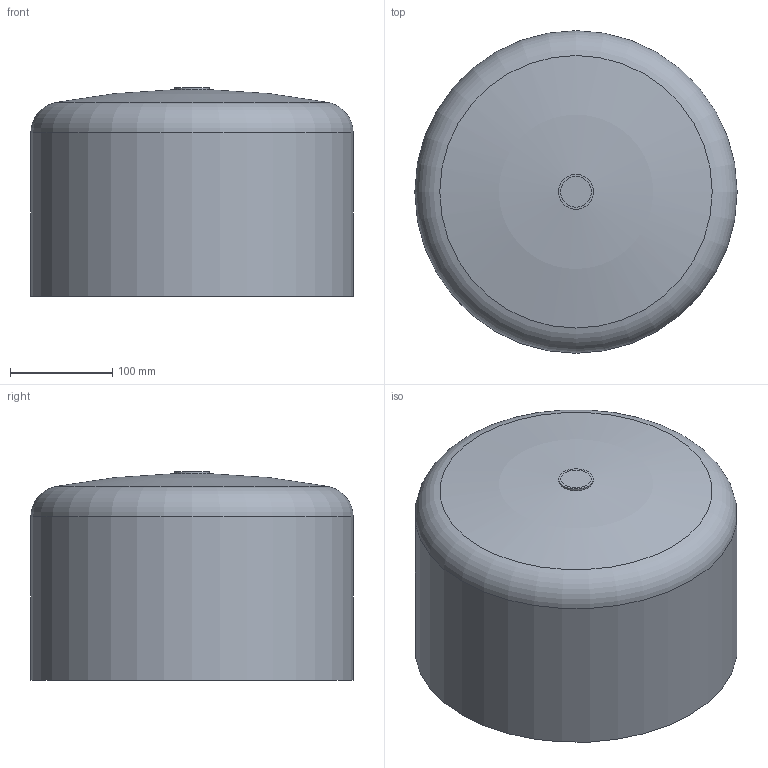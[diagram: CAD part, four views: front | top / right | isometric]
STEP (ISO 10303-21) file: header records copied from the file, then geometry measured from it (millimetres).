
FILE_DESCRIPTION(/* description */ ('Unknown'),/* implementation_level */ '2;1');
FILE_NAME(/* name */ 'CAP315G',/* time_stamp */ '2022-04-02T11:13:29+02:00',/* author */ ('Unknown'),/* organization */ ('Unknown'),/* preprocessor_version */ 'ST-DEVELOPER v18.1',/* originating_system */ 'Solid Edge',/* authorisation */ 'Unknown');
FILE_SCHEMA (('AUTOMOTIVE_DESIGN {1 0 10303 214 3 1 1}'));
Length unit declared in the file: millimetre
Products named in the file (1): CAP315G
Bounding box: 315 x 315 x 204 mm (x, y, z)
Volume: 8406176.6 mm3; surface area: 458101.1 mm2
Topology: 1 solids, 1 shells, 302 faces, 701 edges, 386 vertices
Faces by surface type: bspline 160, plane 51, cylinder 50, torus 18, sphere 18, cone 5
Full cylindrical faces by diameter (mm): 244.6 x1, 315 x1
Entity records: 11189 total; most frequent: CARTESIAN_POINT 5478, ORIENTED_EDGE 1336, DIRECTION 998, EDGE_CURVE 668, AXIS2_PLACEMENT_3D 443, VERTEX_POINT 380, EDGE_LOOP 314, FACE_BOUND 314
